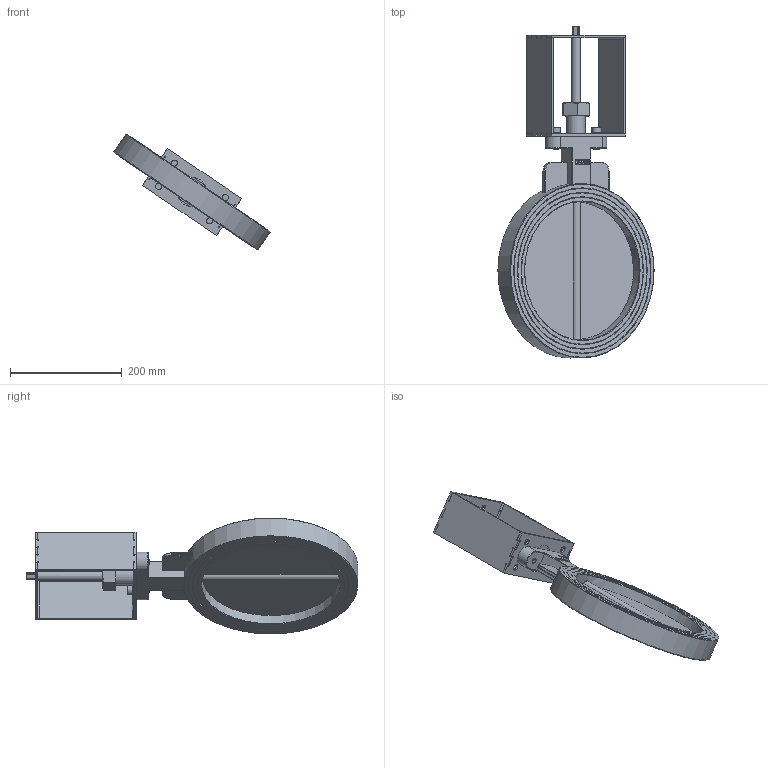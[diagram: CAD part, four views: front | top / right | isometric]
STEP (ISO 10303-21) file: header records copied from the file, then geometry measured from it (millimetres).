
FILE_DESCRIPTION(/* description */ (''),/* implementation_level */ '2;1');
FILE_NAME(/* name */ 'S:\Technik-3D\Typ 5k Drosselklappen\Typ 5k DN250\Typ 5k DN250.stp',/* time_stamp */ '2014-02-13T15:45:19+01:00',/* author */ ('Technik-3D'),/* organization */ (''),/* preprocessor_version */ 'ST-DEVELOPER v15.2',/* originating_system */ 'Autodesk Inventor 2014',/* authorisation */ '');
FILE_SCHEMA (('AUTOMOTIVE_DESIGN { 1 0 10303 214 3 1 1 }'));
Length unit declared in the file: millimetre
Products named in the file (14): Gussring DN250; Graphitbuchse d=16; Stopfbuchse d=16 MS; ISO 49 Kappe T1 1; Konsole F05,07 ab DN200_Schweißnähte; Unterteil Konsole F05, F07, ST; Seitenteil F05, F07, ST; Oberteil Konsole F05, F07, ST; Konsole F05,07 ab DN200; DIN 127 - A 10; M 10x30; Welle DN250; Ronde DN250; Typ 5k DN250
Bounding box: 279.46 x 594 x 207.24 mm (x, y, z)
Volume: 1850162.4 mm3; surface area: 444555.2 mm2
Topology: 18 solids, 18 shells, 429 faces, 1077 edges, 710 vertices
Faces by surface type: plane 231, cylinder 108, bspline 44, cone 38, torus 8
Full cylindrical faces by diameter (mm): 7 x4, 8.376 x2, 9 x4, 10 x2, 11 x4, 12 x2, 16 x4, 16.5 x3, 18 x1, 22.5 x1, 23 x2, 25 x1, 33 x1, 37 x1, 52 x1, 246 x1, 248 x1, 263 x2, 265 x2, 279 x2, 281 x2, 295 x2, 297 x2, 312 x1
Entity records: 11409 total; most frequent: CARTESIAN_POINT 2638, ORIENTED_EDGE 1686, DIRECTION 1647, EDGE_CURVE 843, VERTEX_POINT 590, AXIS2_PLACEMENT_3D 585, EDGE_LOOP 509, LINE 477
